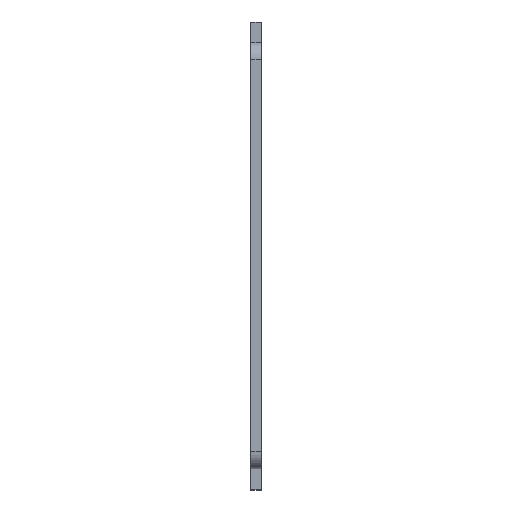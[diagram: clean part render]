
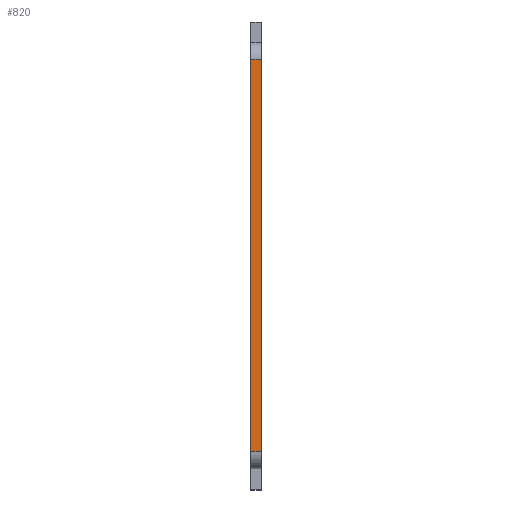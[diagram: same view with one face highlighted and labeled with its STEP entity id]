
A CAD part, top view. The second image highlights one B-rep face of the part: STEP entity #820.
In plain terms, the highlighted planar face has unit normal (0, 0, 1).
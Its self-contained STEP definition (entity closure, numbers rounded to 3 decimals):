
#22=PLANE('',#890);
#62=FACE_OUTER_BOUND('',#105,.T.);
#105=EDGE_LOOP('',(#641,#642,#643,#644));
#153=LINE('',#1189,#257);
#185=LINE('',#1272,#289);
#186=LINE('',#1275,#290);
#187=LINE('',#1276,#291);
#257=VECTOR('',#953,10.);
#289=VECTOR('',#1023,10.);
#290=VECTOR('',#1026,10.);
#291=VECTOR('',#1027,10.);
#380=VERTEX_POINT('',#1186);
#381=VERTEX_POINT('',#1188);
#412=VERTEX_POINT('',#1268);
#414=VERTEX_POINT('',#1274);
#461=EDGE_CURVE('',#380,#381,#153,.T.);
#503=EDGE_CURVE('',#381,#412,#185,.T.);
#504=EDGE_CURVE('',#414,#380,#186,.T.);
#505=EDGE_CURVE('',#412,#414,#187,.T.);
#641=ORIENTED_EDGE('',*,*,#503,.F.);
#642=ORIENTED_EDGE('',*,*,#461,.F.);
#643=ORIENTED_EDGE('',*,*,#504,.F.);
#644=ORIENTED_EDGE('',*,*,#505,.F.);
#820=ADVANCED_FACE('',(#62),#22,.T.);
#890=AXIS2_PLACEMENT_3D('',#1273,#1024,#1025);
#953=DIRECTION('',(0.,1.,0.));
#1023=DIRECTION('',(1.,0.,0.));
#1024=DIRECTION('center_axis',(0.,0.,1.));
#1025=DIRECTION('ref_axis',(0.,-1.,0.));
#1026=DIRECTION('',(-1.,0.,0.));
#1027=DIRECTION('',(0.,-1.,0.));
#1186=CARTESIAN_POINT('',(0.,-57.5,60.));
#1188=CARTESIAN_POINT('',(0.,57.5,60.));
#1189=CARTESIAN_POINT('',(0.,-62.5,60.));
#1268=CARTESIAN_POINT('',(3.,57.5,60.));
#1272=CARTESIAN_POINT('',(0.,57.5,60.));
#1273=CARTESIAN_POINT('Origin',(0.,62.5,60.));
#1274=CARTESIAN_POINT('',(3.,-57.5,60.));
#1275=CARTESIAN_POINT('',(0.,-57.5,60.));
#1276=CARTESIAN_POINT('',(3.,-62.5,60.));
